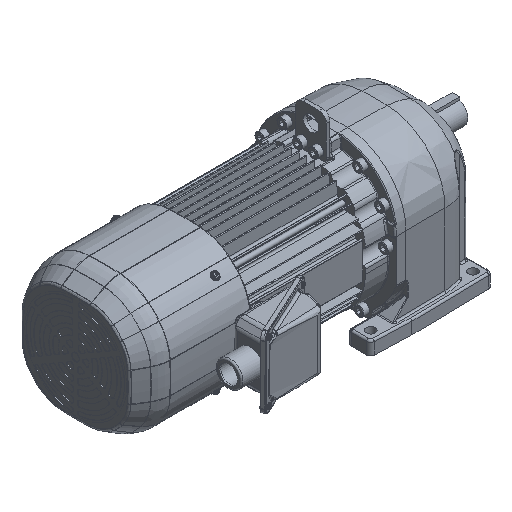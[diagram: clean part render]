
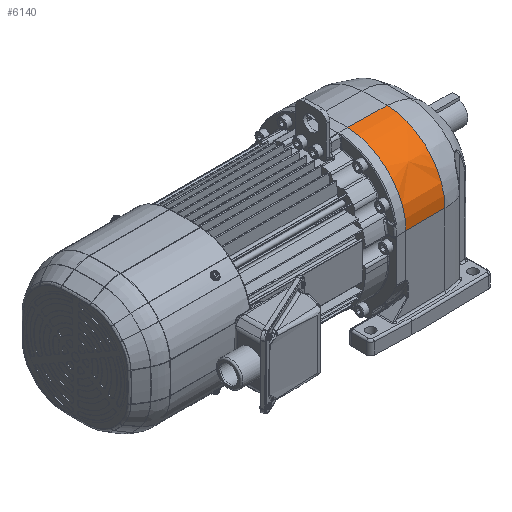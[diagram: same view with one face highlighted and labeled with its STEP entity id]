
A CAD part, isometric view. The second image highlights one B-rep face of the part: STEP entity #6140.
In plain terms, the highlighted free-form (B-spline) face has degree [3, 2] with [12, 3] control points.
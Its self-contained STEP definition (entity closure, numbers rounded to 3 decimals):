
#6140 = ADVANCED_FACE( '', ( #12736 ), #12737, .T. );
#12736 = FACE_OUTER_BOUND( '', #33649, .T. );
#12737 = ( BOUNDED_SURFACE(  )B_SPLINE_SURFACE( 3, 2, ( ( #33652, #33653, #33654 ), ( #33655, #33656, #33657 ), ( #33658, #33659, #33660 ), ( #33661, #33662, #33663 ), ( #33664, #33665, #33666 ), ( #33667, #33668, #33669 ), ( #33670, #33671, #33672 ), ( #33673, #33674, #33675 ), ( #33676, #33677, #33678 ), ( #33679, #33680, #33681 ), ( #33682, #33683, #33684 ), ( #33685, #33686, #33687 ) ), .UNSPECIFIED., .F., .F., .F. )B_SPLINE_SURFACE_WITH_KNOTS( ( 4, 1, 1, 1, 1, 1, 1, 1, 1, 4 ), ( 3, 3 ), ( 0., 0.008, 0.016, 0.031, 0.063, 0.125, 0.2, 0.25, 0.5, 1. ), ( 0., 1. ), .UNSPECIFIED. )GEOMETRIC_REPRESENTATION_ITEM(  )RATIONAL_B_SPLINE_SURFACE( ( ( 1., 0.719, 1. ), ( 1., 0.719, 1. ), ( 1., 0.719, 1. ), ( 1., 0.719, 1. ), ( 1., 0.719, 1. ), ( 1., 0.719, 1. ), ( 1., 0.719, 1. ), ( 1., 0.719, 1. ), ( 1., 0.719, 1. ), ( 1., 0.719, 1. ), ( 1., 0.719, 1. ), ( 1., 0.719, 1. ) ) )REPRESENTATION_ITEM( '' )SURFACE(  ) );
#33649 = EDGE_LOOP( '', ( #51084, #51085, #51086, #51087 ) );
#33652 = CARTESIAN_POINT( '', ( 108.711, 162.274, 120.803 ) );
#33653 = CARTESIAN_POINT( '', ( 108.711, 85.83, 118.253 ) );
#33654 = CARTESIAN_POINT( '', ( 108.711, 85.83, 41.767 ) );
#33655 = CARTESIAN_POINT( '', ( 108.574, 162.273, 120.805 ) );
#33656 = CARTESIAN_POINT( '', ( 108.574, 85.827, 118.255 ) );
#33657 = CARTESIAN_POINT( '', ( 108.579, 85.827, 41.766 ) );
#33658 = CARTESIAN_POINT( '', ( 108.301, 162.273, 120.81 ) );
#33659 = CARTESIAN_POINT( '', ( 108.301, 85.823, 118.26 ) );
#33660 = CARTESIAN_POINT( '', ( 108.299, 85.823, 41.766 ) );
#33661 = CARTESIAN_POINT( '', ( 107.754, 162.273, 120.819 ) );
#33662 = CARTESIAN_POINT( '', ( 107.754, 85.813, 118.269 ) );
#33663 = CARTESIAN_POINT( '', ( 107.755, 85.813, 41.767 ) );
#33664 = CARTESIAN_POINT( '', ( 106.796, 162.274, 120.836 ) );
#33665 = CARTESIAN_POINT( '', ( 106.796, 85.796, 118.286 ) );
#33666 = CARTESIAN_POINT( '', ( 106.796, 85.796, 41.768 ) );
#33667 = CARTESIAN_POINT( '', ( 104.882, 162.275, 120.87 ) );
#33668 = CARTESIAN_POINT( '', ( 104.882, 85.763, 118.318 ) );
#33669 = CARTESIAN_POINT( '', ( 104.883, 85.763, 41.77 ) );
#33670 = CARTESIAN_POINT( '', ( 101.928, 162.278, 120.922 ) );
#33671 = CARTESIAN_POINT( '', ( 101.928, 85.711, 118.368 ) );
#33672 = CARTESIAN_POINT( '', ( 101.928, 85.711, 41.775 ) );
#33673 = CARTESIAN_POINT( '', ( 98.646, 162.283, 120.979 ) );
#33674 = CARTESIAN_POINT( '', ( 98.646, 85.653, 118.424 ) );
#33675 = CARTESIAN_POINT( '', ( 98.647, 85.653, 41.782 ) );
#33676 = CARTESIAN_POINT( '', ( 92.083, 162.287, 121.094 ) );
#33677 = CARTESIAN_POINT( '', ( 92.083, 85.538, 118.536 ) );
#33678 = CARTESIAN_POINT( '', ( 92.083, 85.538, 41.79 ) );
#33679 = CARTESIAN_POINT( '', ( 78.08, 162.278, 121.34 ) );
#33680 = CARTESIAN_POINT( '', ( 78.08, 85.292, 118.773 ) );
#33681 = CARTESIAN_POINT( '', ( 78.08, 85.292, 41.789 ) );
#33682 = CARTESIAN_POINT( '', ( 64.953, 162.263, 121.569 ) );
#33683 = CARTESIAN_POINT( '', ( 64.953, 85.063, 118.995 ) );
#33684 = CARTESIAN_POINT( '', ( 64.953, 85.063, 41.781 ) );
#33685 = CARTESIAN_POINT( '', ( 56.201, 162.243, 121.722 ) );
#33686 = CARTESIAN_POINT( '', ( 56.201, 84.91, 119.143 ) );
#33687 = CARTESIAN_POINT( '', ( 56.201, 84.91, 41.767 ) );
#51084 = ORIENTED_EDGE( '', *, *, #57447, .T. );
#51085 = ORIENTED_EDGE( '', *, *, #52342, .F. );
#51086 = ORIENTED_EDGE( '', *, *, #58870, .F. );
#51087 = ORIENTED_EDGE( '', *, *, #53300, .F. );
#52342 = EDGE_CURVE( '', #59538, #59539, #59540, .T. );
#53300 = EDGE_CURVE( '', #61208, #61202, #61210, .T. );
#57447 = EDGE_CURVE( '', #61208, #59539, #67342, .T. );
#58870 = EDGE_CURVE( '', #61202, #59538, #68971, .T. );
#59538 = VERTEX_POINT( '', #70211 );
#59539 = VERTEX_POINT( '', #70212 );
#59540 = CIRCLE( '', #70213, 80. );
#61202 = VERTEX_POINT( '', #72925 );
#61208 = VERTEX_POINT( '', #73034 );
#61210 = CIRCLE( '', #73046, 79.08 );
#67342 = B_SPLINE_CURVE_WITH_KNOTS( '', 3, ( #84951, #84952, #84953, #84954, #84955, #84956, #84957, #84958, #84959, #84960, #84961, #84962 ), .UNSPECIFIED., .F., .F., ( 4, 1, 1, 1, 1, 1, 1, 1, 1, 4 ), ( 0., 0.008, 0.016, 0.031, 0.063, 0.125, 0.2, 0.25, 0.5, 1. ), .UNSPECIFIED. );
#68971 = B_SPLINE_CURVE_WITH_KNOTS( '', 3, ( #87543, #87544, #87545, #87546, #87547, #87548, #87549, #87550, #87551, #87552, #87553, #87554 ), .UNSPECIFIED., .F., .F., ( 4, 1, 1, 1, 1, 1, 1, 1, 1, 4 ), ( 0., 0.008, 0.016, 0.031, 0.063, 0.125, 0.2, 0.25, 0.5, 1. ), .UNSPECIFIED. );
#70211 = CARTESIAN_POINT( '', ( 56.201, 84.91, 41.767 ) );
#70212 = CARTESIAN_POINT( '', ( 56.201, 162.243, 121.722 ) );
#70213 = AXIS2_PLACEMENT_3D( '', #88126, #88127, #88128 );
#72925 = CARTESIAN_POINT( '', ( 108.711, 85.83, 41.767 ) );
#73034 = CARTESIAN_POINT( '', ( 108.711, 162.274, 120.803 ) );
#73046 = AXIS2_PLACEMENT_3D( '', #89481, #89482, #89483 );
#84951 = CARTESIAN_POINT( '', ( 108.711, 162.274, 120.803 ) );
#84952 = CARTESIAN_POINT( '', ( 108.574, 162.273, 120.805 ) );
#84953 = CARTESIAN_POINT( '', ( 108.301, 162.273, 120.81 ) );
#84954 = CARTESIAN_POINT( '', ( 107.754, 162.273, 120.819 ) );
#84955 = CARTESIAN_POINT( '', ( 106.796, 162.274, 120.836 ) );
#84956 = CARTESIAN_POINT( '', ( 104.882, 162.275, 120.87 ) );
#84957 = CARTESIAN_POINT( '', ( 101.928, 162.278, 120.922 ) );
#84958 = CARTESIAN_POINT( '', ( 98.646, 162.283, 120.979 ) );
#84959 = CARTESIAN_POINT( '', ( 92.083, 162.287, 121.094 ) );
#84960 = CARTESIAN_POINT( '', ( 78.08, 162.278, 121.34 ) );
#84961 = CARTESIAN_POINT( '', ( 64.953, 162.263, 121.569 ) );
#84962 = CARTESIAN_POINT( '', ( 56.201, 162.243, 121.722 ) );
#87543 = CARTESIAN_POINT( '', ( 108.711, 85.83, 41.767 ) );
#87544 = CARTESIAN_POINT( '', ( 108.579, 85.827, 41.766 ) );
#87545 = CARTESIAN_POINT( '', ( 108.299, 85.823, 41.766 ) );
#87546 = CARTESIAN_POINT( '', ( 107.755, 85.813, 41.767 ) );
#87547 = CARTESIAN_POINT( '', ( 106.796, 85.796, 41.768 ) );
#87548 = CARTESIAN_POINT( '', ( 104.883, 85.763, 41.77 ) );
#87549 = CARTESIAN_POINT( '', ( 101.928, 85.711, 41.775 ) );
#87550 = CARTESIAN_POINT( '', ( 98.647, 85.653, 41.782 ) );
#87551 = CARTESIAN_POINT( '', ( 92.083, 85.538, 41.79 ) );
#87552 = CARTESIAN_POINT( '', ( 78.08, 85.292, 41.789 ) );
#87553 = CARTESIAN_POINT( '', ( 64.953, 85.063, 41.781 ) );
#87554 = CARTESIAN_POINT( '', ( 56.201, 84.91, 41.767 ) );
#88126 = CARTESIAN_POINT( '', ( 56.201, 164.91, 41.767 ) );
#88127 = DIRECTION( '', ( -1., 0., 0. ) );
#88128 = DIRECTION( '', ( 0., 1., 0. ) );
#89481 = CARTESIAN_POINT( '', ( 108.711, 164.91, 41.767 ) );
#89482 = DIRECTION( '', ( 1., 0., 0. ) );
#89483 = DIRECTION( '', ( 0., -0.033, 0.999 ) );
